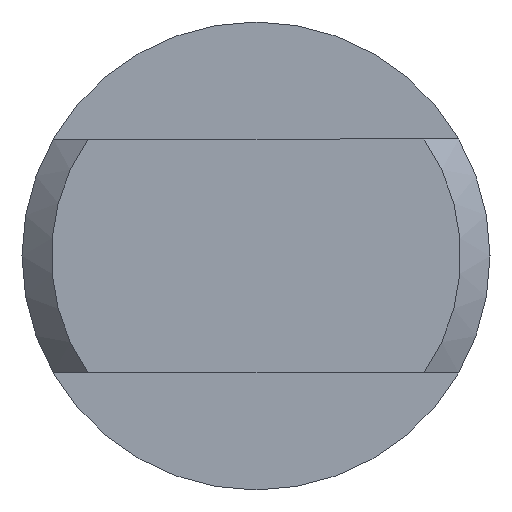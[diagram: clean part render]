
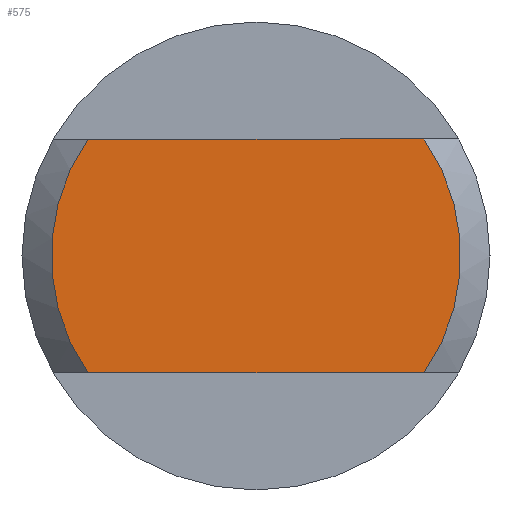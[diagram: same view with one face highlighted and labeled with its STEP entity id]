
A CAD part, left-side view. The second image highlights one B-rep face of the part: STEP entity #575.
In plain terms, the highlighted planar face has unit normal (-1, 0, 0).
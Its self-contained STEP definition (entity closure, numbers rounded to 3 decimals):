
#56 = AXIS2_PLACEMENT_3D ( 'NONE', #799, #1036, #157 ) ;
#126 = CARTESIAN_POINT ( 'NONE',  ( -30., 0., 0. ) ) ;
#155 = AXIS2_PLACEMENT_3D ( 'NONE', #126, #442, #1031 ) ;
#156 = ORIENTED_EDGE ( 'NONE', *, *, #268, .F. ) ;
#157 = DIRECTION ( 'NONE',  ( 0., 0., -1. ) ) ;
#164 = CARTESIAN_POINT ( 'NONE',  ( -30., -4.308, -3. ) ) ;
#165 = ORIENTED_EDGE ( 'NONE', *, *, #550, .F. ) ;
#216 = VERTEX_POINT ( 'NONE', #164 ) ;
#231 = CARTESIAN_POINT ( 'NONE',  ( -30., -4.308, 3. ) ) ;
#268 = EDGE_CURVE ( 'NONE', #216, #586, #796, .T. ) ;
#271 = AXIS2_PLACEMENT_3D ( 'NONE', #707, #629, #964 ) ;
#289 = EDGE_LOOP ( 'NONE', ( #165, #563, #156, #876 ) ) ;
#293 = CARTESIAN_POINT ( 'NONE',  ( -30., 0., 3. ) ) ;
#382 = LINE ( 'NONE', #293, #607 ) ;
#436 = CARTESIAN_POINT ( 'NONE',  ( -30., 4.308, 3. ) ) ;
#442 = DIRECTION ( 'NONE',  ( 1., 0., 0. ) ) ;
#550 = EDGE_CURVE ( 'NONE', #569, #805, #382, .T. ) ;
#563 = ORIENTED_EDGE ( 'NONE', *, *, #745, .T. ) ;
#569 = VERTEX_POINT ( 'NONE', #436 ) ;
#575 = ADVANCED_FACE ( 'NONE', ( #858 ), #951, .F. ) ;
#586 = VERTEX_POINT ( 'NONE', #615 ) ;
#607 = VECTOR ( 'NONE', #684, 1000. ) ;
#615 = CARTESIAN_POINT ( 'NONE',  ( -30., 4.308, -3. ) ) ;
#629 = DIRECTION ( 'NONE',  ( -1., 0., 0. ) ) ;
#671 = EDGE_CURVE ( 'NONE', #216, #805, #1016, .T. ) ;
#684 = DIRECTION ( 'NONE',  ( 0., -1., 0. ) ) ;
#707 = CARTESIAN_POINT ( 'NONE',  ( -30., 0., 0. ) ) ;
#722 = DIRECTION ( 'NONE',  ( 0., 1., 0. ) ) ;
#724 = CARTESIAN_POINT ( 'NONE',  ( -30., 0., -3. ) ) ;
#725 = CIRCLE ( 'NONE', #271, 5.25 ) ;
#745 = EDGE_CURVE ( 'NONE', #569, #586, #725, .T. ) ;
#796 = LINE ( 'NONE', #724, #798 ) ;
#798 = VECTOR ( 'NONE', #722, 1000. ) ;
#799 = CARTESIAN_POINT ( 'NONE',  ( -30., 0., 0. ) ) ;
#805 = VERTEX_POINT ( 'NONE', #231 ) ;
#858 = FACE_OUTER_BOUND ( 'NONE', #289, .T. ) ;
#876 = ORIENTED_EDGE ( 'NONE', *, *, #671, .T. ) ;
#951 = PLANE ( 'NONE',  #155 ) ;
#964 = DIRECTION ( 'NONE',  ( 0., 0., -1. ) ) ;
#1016 = CIRCLE ( 'NONE', #56, 5.25 ) ;
#1031 = DIRECTION ( 'NONE',  ( 0., 0., -1. ) ) ;
#1036 = DIRECTION ( 'NONE',  ( -1., 0., 0. ) ) ;
